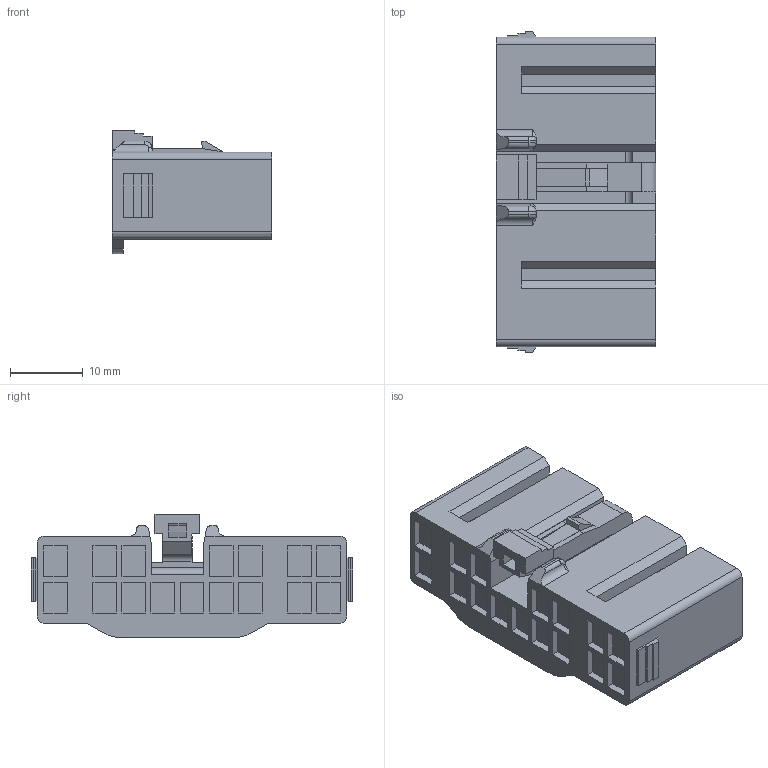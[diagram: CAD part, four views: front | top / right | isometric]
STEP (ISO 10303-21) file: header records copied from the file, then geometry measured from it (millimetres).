
FILE_DESCRIPTION(('CATIA V5 STEP Exchange'),'2;1');
FILE_NAME('N:\C-DAM_MyDesk\ENV\900093\6240-5088.stp','2013-07-08T01:03:29+00:00',('none'),('none'),'CATIA Version 5 Release 20 SP 4 (IN-10)','CATIA V5 STEP AP203','none');
FILE_SCHEMA(('CONFIG_CONTROL_DESIGN'));
Length unit declared in the file: millimetre
Products named in the file (1): 6240-5088
Bounding box: 22 x 44.3 x 17 mm (x, y, z)
Volume: 9897.9 mm3; surface area: 5061 mm2
Topology: 1 solids, 1 shells, 289 faces, 756 edges, 502 vertices
Faces by surface type: plane 264, cylinder 15, bspline 8, torus 2
Entity records: 8735 total; most frequent: CARTESIAN_POINT 1983, ORIENTED_EDGE 1512, DIRECTION 1116, EDGE_CURVE 756, VECTOR 702, LINE 702, VERTEX_POINT 502, EDGE_LOOP 324
